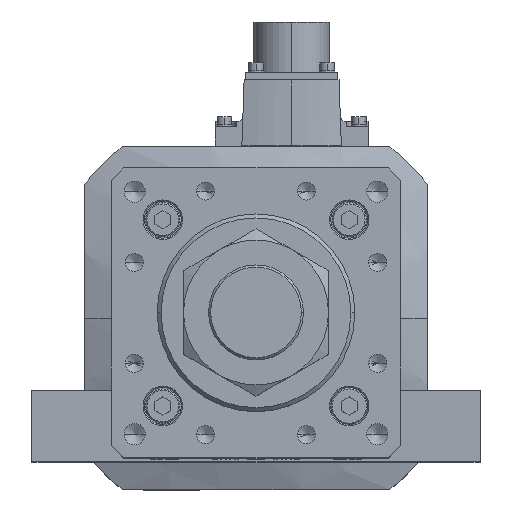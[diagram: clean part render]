
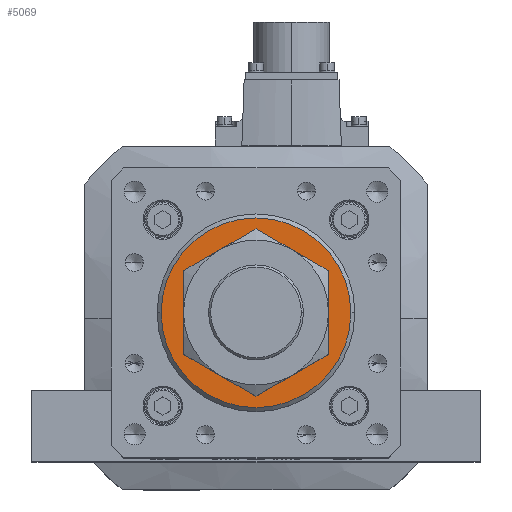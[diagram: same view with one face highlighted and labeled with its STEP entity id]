
A CAD part, top view. The second image highlights one B-rep face of the part: STEP entity #5069.
In plain terms, the highlighted planar face has unit normal (0, 0, 1).
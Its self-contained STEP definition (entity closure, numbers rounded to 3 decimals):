
#1580 = CIRCLE ( 'NONE', #4132, 23. ) ;
#3366 = DIRECTION ( 'NONE',  ( 1., 0., 0. ) ) ;
#3802 = DIRECTION ( 'NONE',  ( 1., 0., 0. ) ) ;
#4132 = AXIS2_PLACEMENT_3D ( 'NONE', #6607, #36171, #3366 ) ;
#4238 = DIRECTION ( 'NONE',  ( 1., 0., 0. ) ) ;
#5069 = ADVANCED_FACE ( 'NONE', ( #8847, #26490 ), #24687, .T. ) ;
#5539 = CARTESIAN_POINT ( 'NONE',  ( 0., 0., 896. ) ) ;
#6607 = CARTESIAN_POINT ( 'NONE',  ( 0., 0., 896. ) ) ;
#8847 = FACE_BOUND ( 'NONE', #33587, .T. ) ;
#9669 = VERTEX_POINT ( 'NONE', #25265 ) ;
#12859 = EDGE_CURVE ( 'NONE', #9669, #33565, #16145, .T. ) ;
#12967 = CARTESIAN_POINT ( 'NONE',  ( 0., 0., 896. ) ) ;
#13447 = EDGE_LOOP ( 'NONE', ( #24444, #16514 ) ) ;
#14894 = CARTESIAN_POINT ( 'NONE',  ( 0., 0., 896. ) ) ;
#15160 = ORIENTED_EDGE ( 'NONE', *, *, #12859, .T. ) ;
#16145 = CIRCLE ( 'NONE', #20376, 23. ) ;
#16264 = CARTESIAN_POINT ( 'NONE',  ( -23., 0., 896. ) ) ;
#16514 = ORIENTED_EDGE ( 'NONE', *, *, #24647, .T. ) ;
#16576 = VERTEX_POINT ( 'NONE', #34807 ) ;
#17528 = EDGE_CURVE ( 'NONE', #33565, #9669, #1580, .T. ) ;
#17541 = ORIENTED_EDGE ( 'NONE', *, *, #17528, .T. ) ;
#18370 = CARTESIAN_POINT ( 'NONE',  ( 0., 0., 896. ) ) ;
#19683 = EDGE_CURVE ( 'NONE', #34505, #16576, #34368, .T. ) ;
#20376 = AXIS2_PLACEMENT_3D ( 'NONE', #5539, #20441, #20698 ) ;
#20441 = DIRECTION ( 'NONE',  ( 0., 0., -1. ) ) ;
#20462 = DIRECTION ( 'NONE',  ( 1., 0., 0. ) ) ;
#20698 = DIRECTION ( 'NONE',  ( 1., 0., 0. ) ) ;
#22018 = DIRECTION ( 'NONE',  ( 0., 0., 1. ) ) ;
#23343 = AXIS2_PLACEMENT_3D ( 'NONE', #14894, #38216, #20462 ) ;
#24444 = ORIENTED_EDGE ( 'NONE', *, *, #19683, .T. ) ;
#24647 = EDGE_CURVE ( 'NONE', #16576, #34505, #35184, .T. ) ;
#24687 = PLANE ( 'NONE',  #32615 ) ;
#25265 = CARTESIAN_POINT ( 'NONE',  ( 23., 0., 896. ) ) ;
#26471 = AXIS2_PLACEMENT_3D ( 'NONE', #12967, #22018, #4238 ) ;
#26490 = FACE_OUTER_BOUND ( 'NONE', #13447, .T. ) ;
#30433 = DIRECTION ( 'NONE',  ( 0., 0., 1. ) ) ;
#32615 = AXIS2_PLACEMENT_3D ( 'NONE', #18370, #30433, #3802 ) ;
#33565 = VERTEX_POINT ( 'NONE', #16264 ) ;
#33587 = EDGE_LOOP ( 'NONE', ( #15160, #17541 ) ) ;
#34162 = CARTESIAN_POINT ( 'NONE',  ( -36., 0., 896. ) ) ;
#34368 = CIRCLE ( 'NONE', #23343, 36. ) ;
#34505 = VERTEX_POINT ( 'NONE', #34162 ) ;
#34807 = CARTESIAN_POINT ( 'NONE',  ( 36., 0., 896. ) ) ;
#35184 = CIRCLE ( 'NONE', #26471, 36. ) ;
#36171 = DIRECTION ( 'NONE',  ( 0., 0., -1. ) ) ;
#38216 = DIRECTION ( 'NONE',  ( 0., 0., 1. ) ) ;
